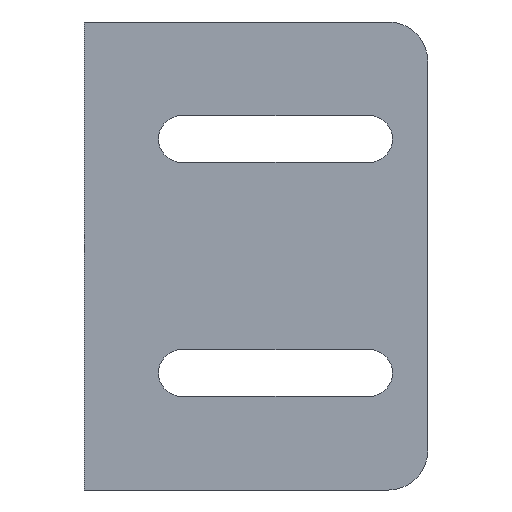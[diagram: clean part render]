
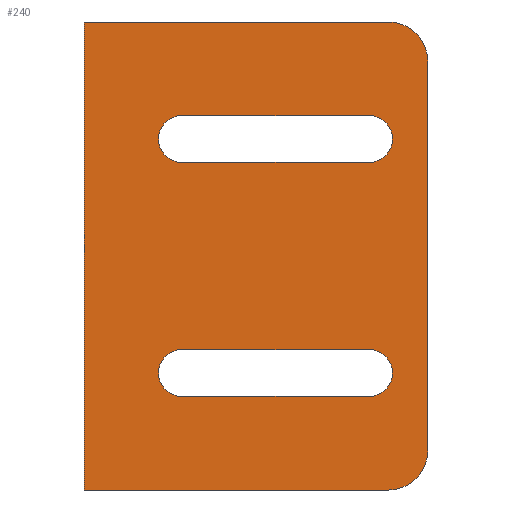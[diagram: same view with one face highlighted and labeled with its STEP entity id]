
A CAD part, front view. The second image highlights one B-rep face of the part: STEP entity #240.
In plain terms, the highlighted planar face has unit normal (0, -1, 0).
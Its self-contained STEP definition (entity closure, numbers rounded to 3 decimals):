
#2 = DIRECTION ( 'NONE',  ( 0., 0., -1. ) ) ;
#7 = EDGE_CURVE ( 'NONE', #351, #796, #729, .T. ) ;
#9 = CARTESIAN_POINT ( 'NONE',  ( 96.5, 0., 18. ) ) ;
#25 = DIRECTION ( 'NONE',  ( 0., 0., -1. ) ) ;
#30 = DIRECTION ( 'NONE',  ( 0., 0., -1. ) ) ;
#35 = FACE_OUTER_BOUND ( 'NONE', #461, .T. ) ;
#40 = ORIENTED_EDGE ( 'NONE', *, *, #979, .F. ) ;
#47 = AXIS2_PLACEMENT_3D ( 'NONE', #751, #131, #673 ) ;
#53 = VERTEX_POINT ( 'NONE', #943 ) ;
#57 = AXIS2_PLACEMENT_3D ( 'NONE', #149, #690, #334 ) ;
#69 = CARTESIAN_POINT ( 'NONE',  ( 60., 0., 30. ) ) ;
#70 = VECTOR ( 'NONE', #596, 1000. ) ;
#85 = EDGE_CURVE ( 'NONE', #313, #764, #467, .T. ) ;
#97 = DIRECTION ( 'NONE',  ( 0., 0., -1. ) ) ;
#119 = CARTESIAN_POINT ( 'NONE',  ( 60., 0., -30. ) ) ;
#128 = ORIENTED_EDGE ( 'NONE', *, *, #434, .F. ) ;
#131 = DIRECTION ( 'NONE',  ( 0., 1., 0. ) ) ;
#138 = VECTOR ( 'NONE', #800, 1000. ) ;
#149 = CARTESIAN_POINT ( 'NONE',  ( 96.5, 0., -15. ) ) ;
#154 = ORIENTED_EDGE ( 'NONE', *, *, #242, .T. ) ;
#158 = ORIENTED_EDGE ( 'NONE', *, *, #505, .F. ) ;
#187 = CARTESIAN_POINT ( 'NONE',  ( 99., 0., -30. ) ) ;
#191 = VECTOR ( 'NONE', #388, 1000. ) ;
#192 = ORIENTED_EDGE ( 'NONE', *, *, #992, .T. ) ;
#219 = DIRECTION ( 'NONE',  ( 0., 1., 0. ) ) ;
#235 = EDGE_CURVE ( 'NONE', #765, #1061, #769, .T. ) ;
#240 = ADVANCED_FACE ( 'NONE', ( #314, #285, #35 ), #391, .T. ) ;
#242 = EDGE_CURVE ( 'NONE', #453, #332, #250, .T. ) ;
#245 = ORIENTED_EDGE ( 'NONE', *, *, #695, .T. ) ;
#250 = LINE ( 'NONE', #119, #722 ) ;
#285 = FACE_BOUND ( 'NONE', #1004, .T. ) ;
#289 = CARTESIAN_POINT ( 'NONE',  ( 60., 0., 30. ) ) ;
#290 = CIRCLE ( 'NONE', #490, 5. ) ;
#313 = VERTEX_POINT ( 'NONE', #360 ) ;
#314 = FACE_BOUND ( 'NONE', #423, .T. ) ;
#332 = VERTEX_POINT ( 'NONE', #187 ) ;
#334 = DIRECTION ( 'NONE',  ( 0., 0., -1. ) ) ;
#336 = VERTEX_POINT ( 'NONE', #9 ) ;
#339 = EDGE_CURVE ( 'NONE', #764, #336, #859, .T. ) ;
#341 = EDGE_CURVE ( 'NONE', #1061, #1032, #676, .T. ) ;
#351 = VERTEX_POINT ( 'NONE', #382 ) ;
#353 = LINE ( 'NONE', #69, #138 ) ;
#360 = CARTESIAN_POINT ( 'NONE',  ( 72.5, 0., 12. ) ) ;
#382 = CARTESIAN_POINT ( 'NONE',  ( 104., 0., 25. ) ) ;
#388 = DIRECTION ( 'NONE',  ( 1., 0., 0. ) ) ;
#391 = PLANE ( 'NONE',  #585 ) ;
#392 = VECTOR ( 'NONE', #741, 1000. ) ;
#399 = CARTESIAN_POINT ( 'NONE',  ( 60., 0., -30. ) ) ;
#418 = EDGE_CURVE ( 'NONE', #1032, #1014, #843, .T. ) ;
#423 = EDGE_LOOP ( 'NONE', ( #1023, #988, #192, #927 ) ) ;
#434 = EDGE_CURVE ( 'NONE', #53, #610, #353, .T. ) ;
#449 = ORIENTED_EDGE ( 'NONE', *, *, #339, .T. ) ;
#453 = VERTEX_POINT ( 'NONE', #399 ) ;
#461 = EDGE_LOOP ( 'NONE', ( #484, #40, #128, #245, #154, #158 ) ) ;
#467 = CIRCLE ( 'NONE', #47, 3. ) ;
#474 = DIRECTION ( 'NONE',  ( 0., 0., -1. ) ) ;
#484 = ORIENTED_EDGE ( 'NONE', *, *, #7, .F. ) ;
#490 = AXIS2_PLACEMENT_3D ( 'NONE', #1070, #598, #30 ) ;
#495 = ORIENTED_EDGE ( 'NONE', *, *, #548, .T. ) ;
#499 = CARTESIAN_POINT ( 'NONE',  ( 96.5, 0., 15. ) ) ;
#505 = EDGE_CURVE ( 'NONE', #796, #332, #652, .T. ) ;
#519 = VECTOR ( 'NONE', #474, 1000. ) ;
#544 = AXIS2_PLACEMENT_3D ( 'NONE', #749, #219, #836 ) ;
#548 = EDGE_CURVE ( 'NONE', #664, #313, #1021, .T. ) ;
#568 = ORIENTED_EDGE ( 'NONE', *, *, #785, .T. ) ;
#581 = LINE ( 'NONE', #713, #996 ) ;
#582 = DIRECTION ( 'NONE',  ( 0., 0., -1. ) ) ;
#585 = AXIS2_PLACEMENT_3D ( 'NONE', #289, #725, #97 ) ;
#586 = DIRECTION ( 'NONE',  ( 0., 1., 0. ) ) ;
#596 = DIRECTION ( 'NONE',  ( -1., 0., 0. ) ) ;
#598 = DIRECTION ( 'NONE',  ( 0., 1., 0. ) ) ;
#610 = VERTEX_POINT ( 'NONE', #631 ) ;
#631 = CARTESIAN_POINT ( 'NONE',  ( 99., 0., 30. ) ) ;
#652 = CIRCLE ( 'NONE', #775, 5. ) ;
#655 = DIRECTION ( 'NONE',  ( 1., 0., 0. ) ) ;
#664 = VERTEX_POINT ( 'NONE', #941 ) ;
#665 = CARTESIAN_POINT ( 'NONE',  ( 104., 0., -25. ) ) ;
#673 = DIRECTION ( 'NONE',  ( 0., 0., -1. ) ) ;
#676 = CIRCLE ( 'NONE', #57, 3. ) ;
#690 = DIRECTION ( 'NONE',  ( 0., 1., 0. ) ) ;
#695 = EDGE_CURVE ( 'NONE', #53, #453, #581, .T. ) ;
#713 = CARTESIAN_POINT ( 'NONE',  ( 60., 0., 30. ) ) ;
#722 = VECTOR ( 'NONE', #920, 1000. ) ;
#725 = DIRECTION ( 'NONE',  ( 0., -1., 0. ) ) ;
#728 = CIRCLE ( 'NONE', #544, 3. ) ;
#729 = LINE ( 'NONE', #1038, #519 ) ;
#733 = CARTESIAN_POINT ( 'NONE',  ( 72.5, 0., 18. ) ) ;
#741 = DIRECTION ( 'NONE',  ( -1., 0., 0. ) ) ;
#749 = CARTESIAN_POINT ( 'NONE',  ( 72.5, 0., -15. ) ) ;
#751 = CARTESIAN_POINT ( 'NONE',  ( 72.5, 0., 15. ) ) ;
#764 = VERTEX_POINT ( 'NONE', #733 ) ;
#765 = VERTEX_POINT ( 'NONE', #1056 ) ;
#769 = LINE ( 'NONE', #963, #950 ) ;
#775 = AXIS2_PLACEMENT_3D ( 'NONE', #1065, #586, #25 ) ;
#785 = EDGE_CURVE ( 'NONE', #336, #664, #944, .T. ) ;
#796 = VERTEX_POINT ( 'NONE', #665 ) ;
#800 = DIRECTION ( 'NONE',  ( 1., 0., 0. ) ) ;
#801 = CARTESIAN_POINT ( 'NONE',  ( 60., 0., -18. ) ) ;
#836 = DIRECTION ( 'NONE',  ( 0., 0., -1. ) ) ;
#843 = LINE ( 'NONE', #801, #392 ) ;
#855 = CARTESIAN_POINT ( 'NONE',  ( 72.5, 0., -18. ) ) ;
#859 = LINE ( 'NONE', #955, #191 ) ;
#920 = DIRECTION ( 'NONE',  ( 1., 0., 0. ) ) ;
#927 = ORIENTED_EDGE ( 'NONE', *, *, #235, .T. ) ;
#941 = CARTESIAN_POINT ( 'NONE',  ( 96.5, 0., 12. ) ) ;
#943 = CARTESIAN_POINT ( 'NONE',  ( 60., 0., 30. ) ) ;
#944 = CIRCLE ( 'NONE', #1095, 3. ) ;
#950 = VECTOR ( 'NONE', #655, 1000. ) ;
#955 = CARTESIAN_POINT ( 'NONE',  ( 60., 0., 18. ) ) ;
#957 = ORIENTED_EDGE ( 'NONE', *, *, #85, .T. ) ;
#963 = CARTESIAN_POINT ( 'NONE',  ( 60., 0., -12. ) ) ;
#978 = CARTESIAN_POINT ( 'NONE',  ( 60., 0., 12. ) ) ;
#979 = EDGE_CURVE ( 'NONE', #610, #351, #290, .T. ) ;
#988 = ORIENTED_EDGE ( 'NONE', *, *, #418, .T. ) ;
#992 = EDGE_CURVE ( 'NONE', #1014, #765, #728, .T. ) ;
#996 = VECTOR ( 'NONE', #2, 1000. ) ;
#1004 = EDGE_LOOP ( 'NONE', ( #568, #495, #957, #449 ) ) ;
#1014 = VERTEX_POINT ( 'NONE', #855 ) ;
#1021 = LINE ( 'NONE', #978, #70 ) ;
#1023 = ORIENTED_EDGE ( 'NONE', *, *, #341, .T. ) ;
#1032 = VERTEX_POINT ( 'NONE', #1094 ) ;
#1038 = CARTESIAN_POINT ( 'NONE',  ( 104., 0., 30. ) ) ;
#1056 = CARTESIAN_POINT ( 'NONE',  ( 72.5, 0., -12. ) ) ;
#1059 = DIRECTION ( 'NONE',  ( 0., 1., 0. ) ) ;
#1061 = VERTEX_POINT ( 'NONE', #1119 ) ;
#1065 = CARTESIAN_POINT ( 'NONE',  ( 99., 0., -25. ) ) ;
#1070 = CARTESIAN_POINT ( 'NONE',  ( 99., 0., 25. ) ) ;
#1094 = CARTESIAN_POINT ( 'NONE',  ( 96.5, 0., -18. ) ) ;
#1095 = AXIS2_PLACEMENT_3D ( 'NONE', #499, #1059, #582 ) ;
#1119 = CARTESIAN_POINT ( 'NONE',  ( 96.5, 0., -12. ) ) ;
